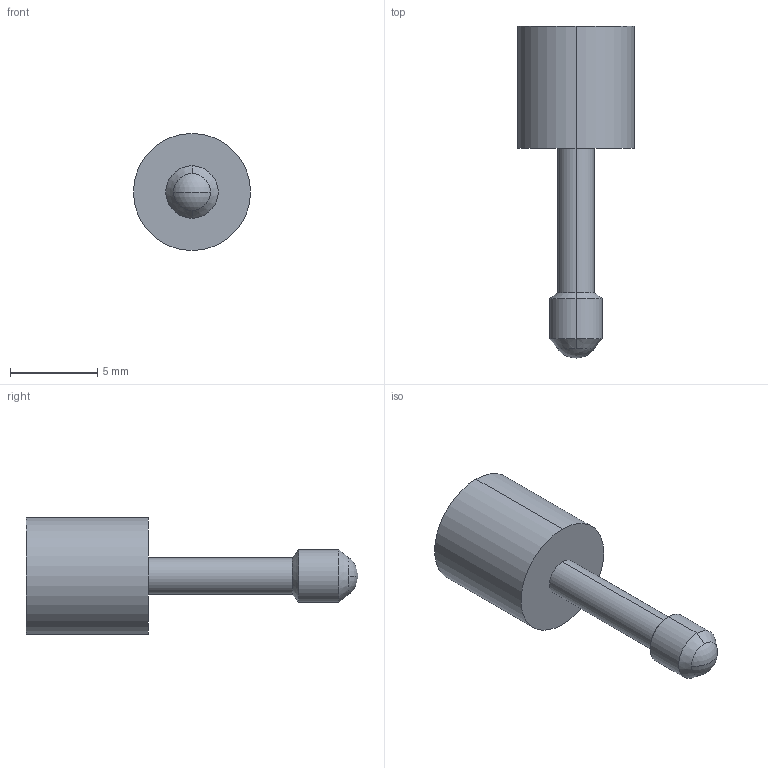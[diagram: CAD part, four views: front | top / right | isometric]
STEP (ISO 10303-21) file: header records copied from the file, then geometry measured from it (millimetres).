
FILE_DESCRIPTION (( 'STEP AP214' ), '1' );
FILE_NAME ('IT671916.STEP', '2013-09-20T10:49:42', ( '' ), ( '' ), 'SwSTEP 2.0', 'SolidWorks 2011', '' );
FILE_SCHEMA (( 'AUTOMOTIVE_DESIGN' ));
Length unit declared in the file: millimetre
Products named in the file (1): IT671916
Bounding box: 6.7 x 19 x 6.7 mm (x, y, z)
Volume: 293.5 mm3; surface area: 318.1 mm2
Topology: 1 solids, 1 shells, 48 faces, 118 edges, 77 vertices
Faces by surface type: cylinder 23, plane 19, cone 4, sphere 2
Entity records: 1490 total; most frequent: DIRECTION 268, CARTESIAN_POINT 244, ORIENTED_EDGE 236, EDGE_CURVE 118, AXIS2_PLACEMENT_3D 101, VERTEX_POINT 77, LINE 66, VECTOR 66
